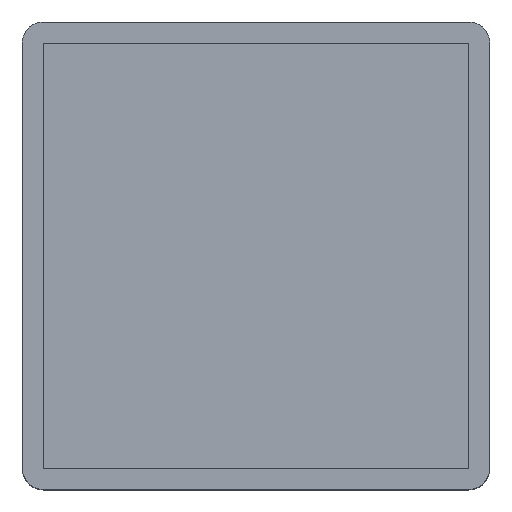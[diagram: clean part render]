
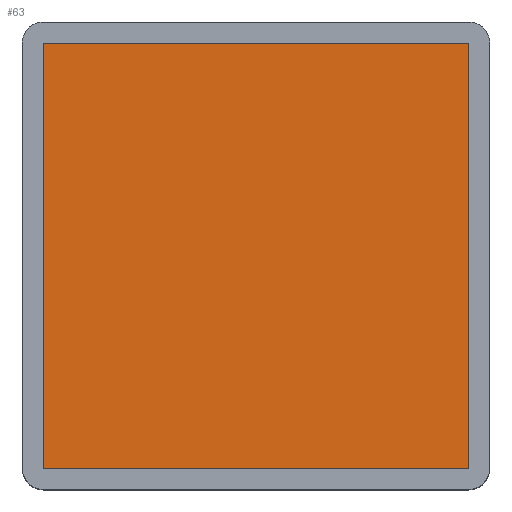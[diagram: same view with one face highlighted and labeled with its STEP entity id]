
A CAD part, top view. The second image highlights one B-rep face of the part: STEP entity #63.
In plain terms, the highlighted planar face has unit normal (0, 0, 1).
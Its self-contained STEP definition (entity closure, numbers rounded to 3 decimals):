
#63=ADVANCED_FACE('',(#135),#136,.T.);
#135=FACE_OUTER_BOUND('',#212,.T.);
#136=PLANE('',#213);
#212=EDGE_LOOP('',(#328,#329,#330,#331));
#213=AXIS2_PLACEMENT_3D('',#332,#333,#334);
#328=ORIENTED_EDGE('',*,*,#486,.T.);
#329=ORIENTED_EDGE('',*,*,#487,.T.);
#330=ORIENTED_EDGE('',*,*,#451,.T.);
#331=ORIENTED_EDGE('',*,*,#472,.T.);
#332=CARTESIAN_POINT('',(-2.0,2.,0.));
#333=DIRECTION('',(0.0,0.0,1.0));
#334=DIRECTION('',(0.0,-1.0,0.0));
#451=EDGE_CURVE('',#526,#527,#528,.T.);
#472=EDGE_CURVE('',#527,#564,#565,.T.);
#486=EDGE_CURVE('',#564,#582,#583,.T.);
#487=EDGE_CURVE('',#582,#526,#584,.T.);
#526=VERTEX_POINT('',#627);
#527=VERTEX_POINT('',#628);
#528=LINE('',#629,#630);
#564=VERTEX_POINT('',#676);
#565=LINE('',#677,#678);
#582=VERTEX_POINT('',#702);
#583=LINE('',#703,#704);
#584=LINE('',#705,#706);
#627=CARTESIAN_POINT('',(0.,-40.0,0.));
#628=CARTESIAN_POINT('',(40.0,-40.0,0.));
#629=CARTESIAN_POINT('',(-2.0,-40.0,0.));
#630=VECTOR('',#754,1.0);
#676=CARTESIAN_POINT('',(40.0,0.,0.));
#677=CARTESIAN_POINT('',(40.0,-42.0,0.));
#678=VECTOR('',#786,1.0);
#702=CARTESIAN_POINT('',(0.,0.,0.));
#703=CARTESIAN_POINT('',(42.0,0.,0.));
#704=VECTOR('',#800,1.0);
#705=CARTESIAN_POINT('',(0.,2.,0.));
#706=VECTOR('',#801,1.0);
#754=DIRECTION('',(1.0,0.0,0.0));
#786=DIRECTION('',(0.0,1.0,0.0));
#800=DIRECTION('',(-1.0,0.0,0.0));
#801=DIRECTION('',(0.0,-1.0,0.0));
